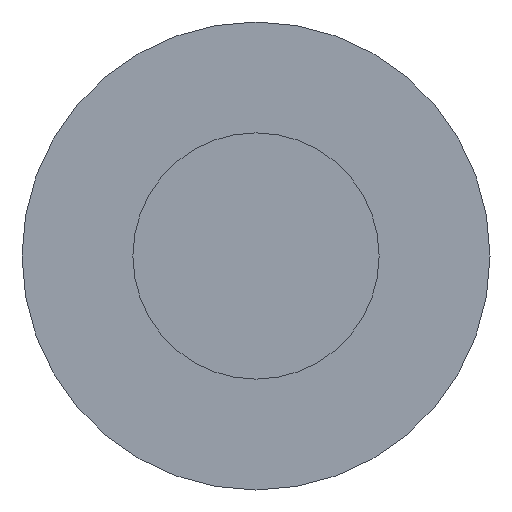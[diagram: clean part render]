
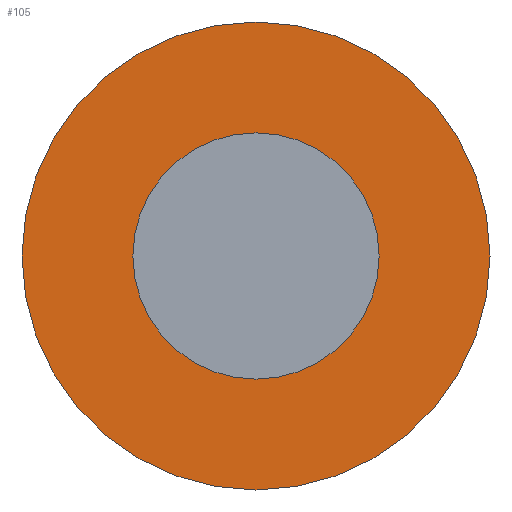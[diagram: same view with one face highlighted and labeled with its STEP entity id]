
A CAD part, front view. The second image highlights one B-rep face of the part: STEP entity #105.
In plain terms, the highlighted planar face has unit normal (0, -1, 0).
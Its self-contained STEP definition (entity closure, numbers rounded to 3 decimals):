
#21 = EDGE_CURVE('',#22,#22,#24,.T.);
#22 = VERTEX_POINT('',#23);
#23 = CARTESIAN_POINT('',(21.4,-29.4,-32.5));
#24 = SURFACE_CURVE('',#25,(#30,#42),.PCURVE_S1.);
#25 = CIRCLE('',#26,1.9);
#26 = AXIS2_PLACEMENT_3D('',#27,#28,#29);
#27 = CARTESIAN_POINT('',(19.5,-29.4,-32.5));
#28 = DIRECTION('',(0.,-1.,0.));
#29 = DIRECTION('',(1.,0.,0.));
#30 = PCURVE('',#31,#36);
#31 = CYLINDRICAL_SURFACE('',#32,1.9);
#32 = AXIS2_PLACEMENT_3D('',#33,#34,#35);
#33 = CARTESIAN_POINT('',(19.5,-28.2,-32.5));
#34 = DIRECTION('',(0.,-1.,0.));
#35 = DIRECTION('',(1.,0.,0.));
#36 = DEFINITIONAL_REPRESENTATION('',(#37),#41);
#37 = LINE('',#38,#39);
#38 = CARTESIAN_POINT('',(0.,1.2));
#39 = VECTOR('',#40,1.);
#40 = DIRECTION('',(1.,0.));
#41 = ( GEOMETRIC_REPRESENTATION_CONTEXT(2) 
PARAMETRIC_REPRESENTATION_CONTEXT() REPRESENTATION_CONTEXT('2D SPACE',''
  ) );
#42 = PCURVE('',#43,#48);
#43 = PLANE('',#44);
#44 = AXIS2_PLACEMENT_3D('',#45,#46,#47);
#45 = CARTESIAN_POINT('',(19.5,-29.4,-32.5));
#46 = DIRECTION('',(0.,-1.,0.));
#47 = DIRECTION('',(1.,0.,0.));
#48 = DEFINITIONAL_REPRESENTATION('',(#49),#53);
#49 = CIRCLE('',#50,1.9);
#50 = AXIS2_PLACEMENT_2D('',#51,#52);
#51 = CARTESIAN_POINT('',(0.,0.));
#52 = DIRECTION('',(1.,0.));
#53 = ( GEOMETRIC_REPRESENTATION_CONTEXT(2) 
PARAMETRIC_REPRESENTATION_CONTEXT() REPRESENTATION_CONTEXT('2D SPACE',''
  ) );
#105 = ADVANCED_FACE('',(#106,#109),#43,.T.);
#106 = FACE_BOUND('',#107,.T.);
#107 = EDGE_LOOP('',(#108));
#108 = ORIENTED_EDGE('',*,*,#21,.T.);
#109 = FACE_BOUND('',#110,.T.);
#110 = EDGE_LOOP('',(#111));
#111 = ORIENTED_EDGE('',*,*,#112,.F.);
#112 = EDGE_CURVE('',#113,#113,#115,.T.);
#113 = VERTEX_POINT('',#114);
#114 = CARTESIAN_POINT('',(20.5,-29.4,-32.5));
#115 = SURFACE_CURVE('',#116,(#121,#128),.PCURVE_S1.);
#116 = CIRCLE('',#117,1.);
#117 = AXIS2_PLACEMENT_3D('',#118,#119,#120);
#118 = CARTESIAN_POINT('',(19.5,-29.4,-32.5));
#119 = DIRECTION('',(0.,-1.,0.));
#120 = DIRECTION('',(1.,0.,0.));
#121 = PCURVE('',#43,#122);
#122 = DEFINITIONAL_REPRESENTATION('',(#123),#127);
#123 = CIRCLE('',#124,1.);
#124 = AXIS2_PLACEMENT_2D('',#125,#126);
#125 = CARTESIAN_POINT('',(0.,0.));
#126 = DIRECTION('',(1.,0.));
#127 = ( GEOMETRIC_REPRESENTATION_CONTEXT(2) 
PARAMETRIC_REPRESENTATION_CONTEXT() REPRESENTATION_CONTEXT('2D SPACE',''
  ) );
#128 = PCURVE('',#129,#134);
#129 = CYLINDRICAL_SURFACE('',#130,1.);
#130 = AXIS2_PLACEMENT_3D('',#131,#132,#133);
#131 = CARTESIAN_POINT('',(19.5,-29.4,-32.5));
#132 = DIRECTION('',(0.,-1.,0.));
#133 = DIRECTION('',(1.,0.,0.));
#134 = DEFINITIONAL_REPRESENTATION('',(#135),#139);
#135 = LINE('',#136,#137);
#136 = CARTESIAN_POINT('',(0.,0.));
#137 = VECTOR('',#138,1.);
#138 = DIRECTION('',(1.,0.));
#139 = ( GEOMETRIC_REPRESENTATION_CONTEXT(2) 
PARAMETRIC_REPRESENTATION_CONTEXT() REPRESENTATION_CONTEXT('2D SPACE',''
  ) );
